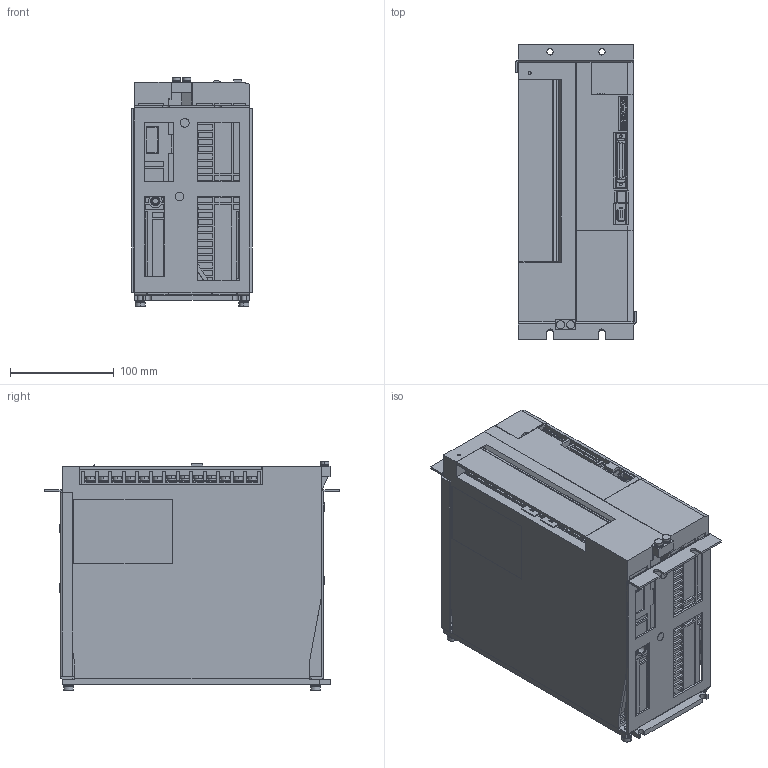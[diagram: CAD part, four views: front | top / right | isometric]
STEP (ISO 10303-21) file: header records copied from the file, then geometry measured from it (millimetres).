
FILE_DESCRIPTION (( 'STEP AP203' ), '1' );
FILE_NAME ('sgd7s_330a00a001.STEP', '2015-09-18T08:28:26', ( '匠エンジニアリング山之内' ), ( 'TAKUMI-Engniaring' ), 'SwSTEP 2.0', 'SolidWorks 2006303', '' );
FILE_SCHEMA (( 'CONFIG_CONTROL_DESIGN' ));
Products named in the file (9): sgd7s_330a00a001_connector; sgd7s_330a00a001; sgd7s_330a00a001_base; sgd7s_330a00a001_cover; sgd7s_330a00a001_cover2; sgd7s_330a00a001_cover3; sgd7s_330a00a001_terminal; sgd7s_330a00a001_mount1; sgd7s_330a00a001_mount2
Assembly tree (10 placements, depth 2):
  sgd7s_330a00a001
    sgd7s_330a00a001_connector
    sgd7s_330a00a001_terminal  x2
    sgd7s_330a00a001_cover2  x2
    sgd7s_330a00a001_cover
    sgd7s_330a00a001_mount1
    sgd7s_330a00a001_base
    sgd7s_330a00a001_mount2
    sgd7s_330a00a001_cover3
Bounding box: 116 x 285 x 220.6 mm (x, y, z)
Volume: 5543299.6 mm3; surface area: 360467 mm2
Topology: 10 solids, 10 shells, 2306 faces, 5876 edges, 3890 vertices
Faces by surface type: plane 1847, cylinder 454, cone 4, sphere 1
Entity records: 68707 total; most frequent: CARTESIAN_POINT 11852, ORIENTED_EDGE 11524, DIRECTION 11238, EDGE_CURVE 5762, LINE 4838, VECTOR 4838, VERTEX_POINT 3814, AXIS2_PLACEMENT_3D 3200
